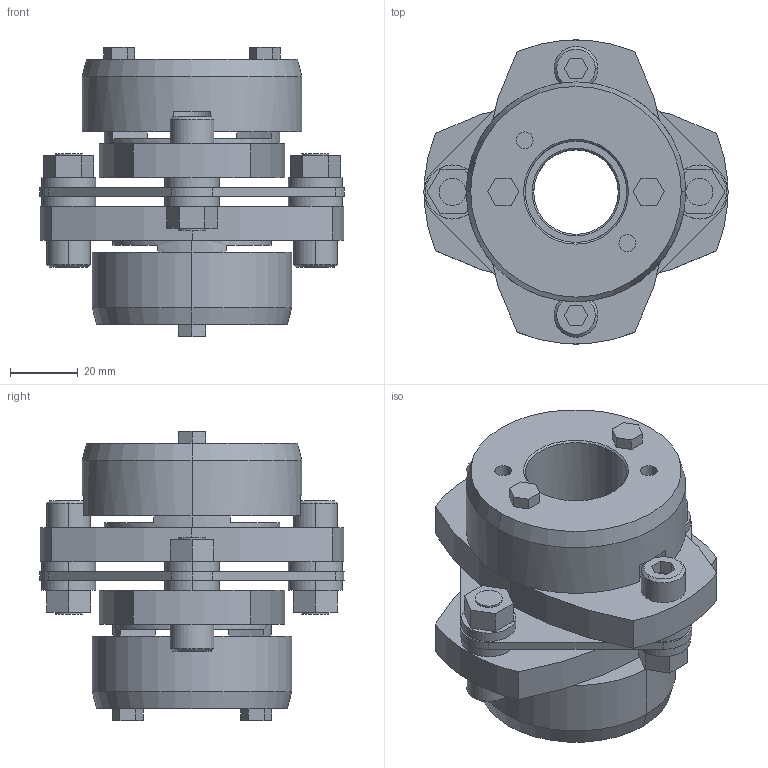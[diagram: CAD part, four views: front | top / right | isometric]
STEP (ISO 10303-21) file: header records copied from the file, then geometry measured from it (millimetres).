
FILE_DESCRIPTION((''),'2;1');
FILE_NAME('LCS-90T7-25×30.stp','2011-09-09T10:10:35',(''),(''),'AutoCAD STEP 2000i','AutoCAD 2000i',', , ');
FILE_SCHEMA(('CONFIG_CONTROL_DESIGN'));
Length unit declared in the file: millimetre
Products named in the file (10): LCS-90T7-25×30; 忣兜1; LC90T7-T030; LC90T7-T025-1; LC90T7-T025; LC90T7-T019-1; LC90T7-T019; LC90-B019-1; LC90-B019; LCS90-ITA
Assembly tree (9 placements, depth 2):
  LCS-90T7-25×30
    忣兜1
    LC90T7-T030
    LC90T7-T025-1
    LC90T7-T025
    LC90T7-T019-1
    LC90T7-T019
    LC90-B019-1
    LC90-B019
    LCS90-ITA
Bounding box: 90 x 89.94 x 85.5 mm (x, y, z)
Volume: 201698.7 mm3; surface area: 52971 mm2
Topology: 1 solids, 1 shells, 222 faces, 544 edges, 356 vertices
Faces by surface type: plane 120, cylinder 82, cone 20
Entity records: 6829 total; most frequent: DIRECTION 1212, CARTESIAN_POINT 1132, ORIENTED_EDGE 1088, EDGE_CURVE 544, AXIS2_PLACEMENT_3D 436, VERTEX_POINT 356, VECTOR 340, LINE 340
